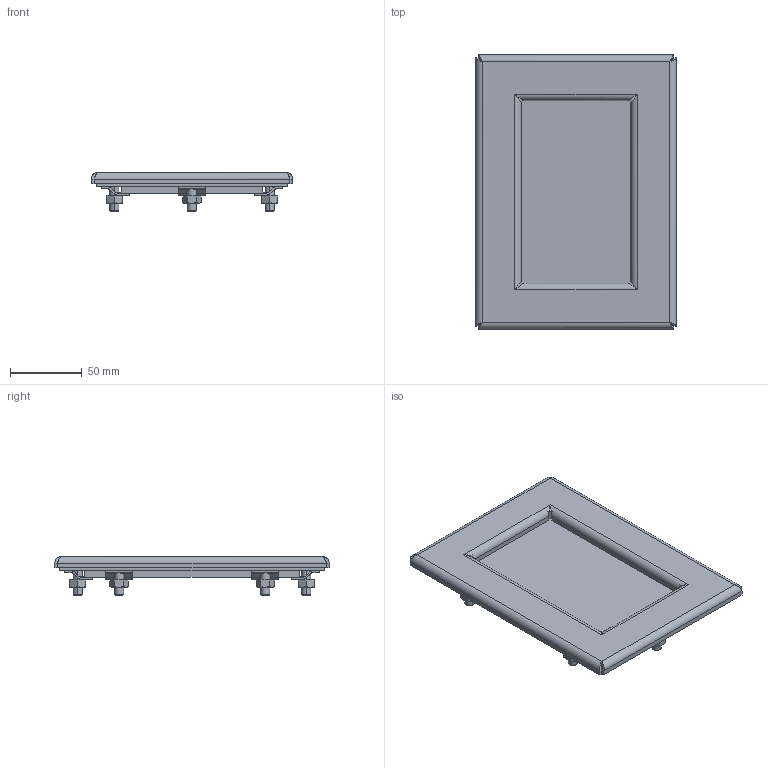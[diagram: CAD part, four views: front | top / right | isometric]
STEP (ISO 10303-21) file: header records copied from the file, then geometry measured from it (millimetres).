
FILE_DESCRIPTION (( 'STEP AP203' ), '1' );
FILE_NAME ('apwk53nf.STEP', '2010-04-30T16:11:13', ( 'Hoffman User' ), ( 'Hoffman Enclosures' ), 'SwSTEP 2.0', 'SolidWorks 2009', '' );
FILE_SCHEMA (( 'CONFIG_CONTROL_DESIGN' ));
Length unit declared in the file: inch
Products named in the file (8): A80SWFrameWindowKit_APWK53NFSS; A80SW_Window_APWK53NFSS_22269010; Gasket_22270001_7.25x5.25; AssyStud; Stud_14_20x1; 99401406_HexNut_14-20_HNUT 0.2500-20-D-C; 22195002_Clamp; apwk53nf
Assembly tree (12 placements, depth 3):
  apwk53nf
    AssyStud  x6
      Stud_14_20x1
      99401406_HexNut_14-20_HNUT 0.2500-20-D-C
      22195002_Clamp
    A80SW_Window_APWK53NFSS_22269010
    Gasket_22270001_7.25x5.25
    A80SWFrameWindowKit_APWK53NFSS
Bounding box: 139.7 x 190.5 x 27.15 mm (x, y, z)
Volume: 253094.2 mm3; surface area: 126132.6 mm2
Topology: 21 solids, 21 shells, 520 faces, 1244 edges, 772 vertices
Faces by surface type: plane 208, cylinder 164, cone 108, sphere 24, bspline 16
Entity records: 6726 total; most frequent: CARTESIAN_POINT 1875, ORIENTED_EDGE 808, DIRECTION 778, EDGE_CURVE 404, AXIS2_PLACEMENT_3D 271, VERTEX_POINT 242, VECTOR 236, LINE 236
